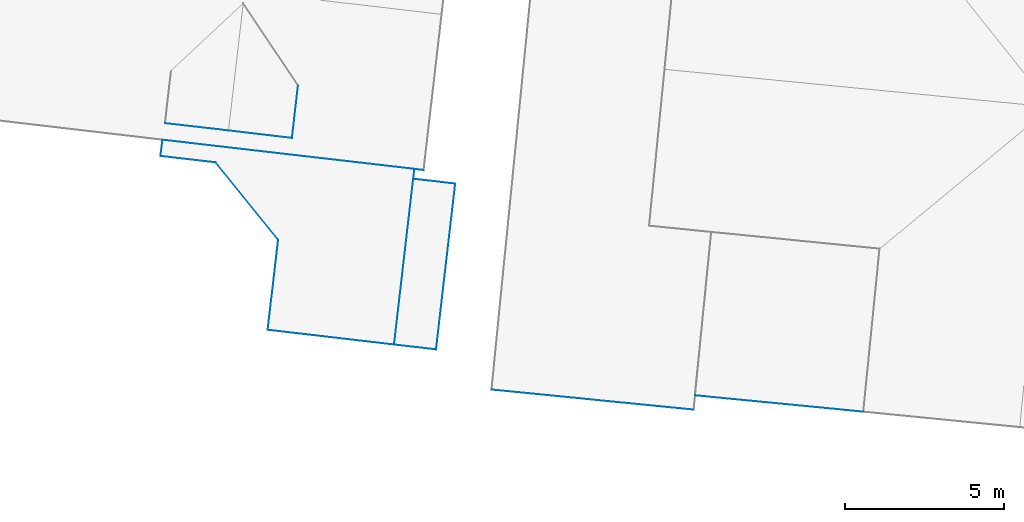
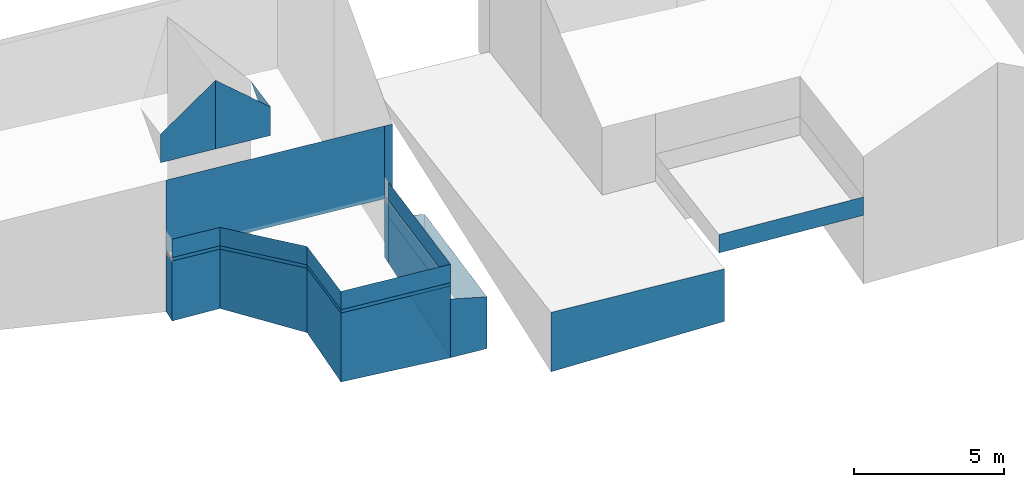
# Not in any storey, part 36 of 57: 34 walls.
"""IFC4 building model written with IfcOpenShell, lengths in metres."""

from ifc_helpers import new_model, entity, si_unit, converted_unit, frame, origin, place, context, subcontext, project, spatial, face_set, surface_model, element, save


model = new_model("IFC4")

# Units and contexts
model_context = context("Model", 3, precision=1e-05, world=origin())
body_context = subcontext(model_context, "Body", "Model", "MODEL_VIEW")
ifc_project = project(units=[converted_unit("PLANEANGLEUNIT", "DEGREE", entity("IfcRatioMeasure", 0.0174532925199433), si_unit("PLANEANGLEUNIT", "RADIAN"), dimensions=[0, 0, 0, 0, 0, 0, 0]), si_unit("AREAUNIT", "SQUARE_METRE"), si_unit("LENGTHUNIT", "METRE")], contexts=[model_context])

# Site, building
site_placement = place(None, origin())
site = spatial("IfcSite", under=ifc_project, at=site_placement, Name="_site")
building_1_placement = place(site_placement, origin())
building_1 = spatial("IfcBuilding", under=site, at=building_1_placement, Name="_building")

# Walls
wall_1_placement = place(building_1_placement, origin())
element("IfcWall", 1, at=wall_1_placement, inside=building_1, Name="Wall", PredefinedType="NOTDEFINED", context=body_context, shape_type="SurfaceModel", body=[
    surface_model("IfcFaceBasedSurfaceModel", [(250.252, 146.227, 112.65), (251.569, 146.076, 112.37), (251.569, 146.076, 110.785), (250.252, 146.227, 110.757)], [face_set([[[0, 1, 2, 3]]])]),
])
wall_2_placement = place(building_1_placement, origin())
element("IfcWall", 2, at=wall_2_placement, inside=building_1, Name="Wall", PredefinedType="NOTDEFINED", context=body_context, shape_type="SurfaceModel", body=[
    surface_model("IfcFaceBasedSurfaceModel", [(246.638, 149.164, 117.675), (246.449, 147.507, 117.68), (246.449, 147.507, 116.513)], [face_set([[[0, 1, 2]]])]),
])
wall_3_placement = place(building_1_placement, origin())
element("IfcWall", 3, at=wall_3_placement, inside=building_1, Name="Wall", PredefinedType="NOTDEFINED", context=body_context, shape_type="SurfaceModel", body=[
    surface_model("IfcFaceBasedSurfaceModel", [(244.05, 146.743, 113.18), (242.324, 146.943, 113.18), (242.324, 146.943, 110.731), (244.05, 146.743, 110.759)], [face_set([[[0, 1, 2, 3]]])]),
])
wall_4_placement = place(building_1_placement, origin())
element("IfcWall", 4, at=wall_4_placement, inside=building_1, Name="Wall", PredefinedType="NOTDEFINED", context=body_context, shape_type="SurfaceModel", body=[
    surface_model("IfcFaceBasedSurfaceModel", [(251.569, 146.076, 112.37), (250.967, 140.877, 112.37), (250.967, 140.877, 110.26), (251.569, 146.076, 110.785)], [face_set([[[0, 1, 2, 3]]])]),
])
wall_5_placement = place(building_1_placement, origin())
element("IfcWall", 5, at=wall_5_placement, inside=building_1, Name="Wall", PredefinedType="NOTDEFINED", context=body_context, shape_type="SurfaceModel", body=[
    surface_model("IfcFaceBasedSurfaceModel", [(245.688, 141.491, 113.32), (246.015, 144.325, 113.32), (246.015, 144.325, 113.18), (245.688, 141.491, 113.18)], [face_set([[[0, 1, 2, 3]]])]),
])
wall_6_placement = place(building_1_placement, origin())
element("IfcWall", 6, at=wall_6_placement, inside=building_1, Name="Wall", PredefinedType="NOTDEFINED", context=body_context, shape_type="SurfaceModel", body=[
    surface_model("IfcFaceBasedSurfaceModel", [(245.688, 141.491, 113.18), (246.015, 144.325, 113.18), (246.015, 144.325, 110.552), (245.688, 141.491, 110.37)], [face_set([[[0, 1, 2, 3]]])]),
])
wall_7_placement = place(building_1_placement, origin())
element("IfcWall", 7, at=wall_7_placement, inside=building_1, Name="Wall", PredefinedType="NOTDEFINED", context=body_context, shape_type="SurfaceModel", body=[
    surface_model("IfcFaceBasedSurfaceModel", [(246.449, 147.507, 117.68), (244.454, 147.744, 119.32), (244.454, 147.744, 116.516), (246.449, 147.507, 116.513)], [face_set([[[0, 1, 2, 3]]])]),
])
wall_8_placement = place(building_1_placement, origin())
element("IfcWall", 8, at=wall_8_placement, inside=building_1, Name="Wall", PredefinedType="NOTDEFINED", context=body_context, shape_type="SurfaceModel", body=[
    surface_model("IfcFaceBasedSurfaceModel", [(250.578, 146.5, 116.15), (250.289, 146.537, 116.15), (250.289, 146.537, 110.787), (250.578, 146.5, 110.785)], [face_set([[[0, 1, 2, 3]]])]),
])
wall_9_placement = place(building_1_placement, origin())
element("IfcWall", 9, at=wall_9_placement, inside=building_1, Name="Wall", PredefinedType="NOTDEFINED", context=body_context, shape_type="SurfaceModel", body=[
    surface_model("IfcFaceBasedSurfaceModel", [(250.289, 146.537, 116.15), (242.386, 147.452, 116.15), (242.386, 147.452, 113.18), (250.289, 146.537, 113.18)], [face_set([[[0, 1, 2, 3]]])]),
])
wall_10_placement = place(building_1_placement, origin())
element("IfcWall", 10, at=wall_10_placement, inside=building_1, Name="Wall", PredefinedType="NOTDEFINED", context=body_context, shape_type="SurfaceModel", body=[
    surface_model("IfcFaceBasedSurfaceModel", [(250.252, 146.227, 113.32), (249.65, 141.028, 113.32), (249.65, 141.028, 112.65), (250.252, 146.227, 112.65)], [face_set([[[0, 1, 2, 3]]])]),
])
wall_11_placement = place(building_1_placement, origin())
element("IfcWall", 11, at=wall_11_placement, inside=building_1, Name="Wall", PredefinedType="NOTDEFINED", context=body_context, shape_type="SurfaceModel", body=[
    surface_model("IfcFaceBasedSurfaceModel", [(250.289, 146.537, 113.18), (250.252, 146.227, 113.18), (250.252, 146.227, 110.757), (250.289, 146.537, 110.787)], [face_set([[[0, 1, 2, 3]]])]),
])
wall_12_placement = place(building_1_placement, origin())
element("IfcWall", 12, at=wall_12_placement, inside=building_1, Name="Wall", PredefinedType="NOTDEFINED", context=body_context, shape_type="SurfaceModel", body=[
    surface_model("IfcFaceBasedSurfaceModel", [(250.967, 140.877, 112.37), (249.65, 141.028, 112.65), (249.65, 141.028, 110.253), (250.967, 140.877, 110.26)], [face_set([[[0, 1, 2, 3]]])]),
])
wall_13_placement = place(building_1_placement, origin())
element("IfcWall", 13, at=wall_13_placement, inside=building_1, Name="Wall", PredefinedType="NOTDEFINED", context=body_context, shape_type="SurfaceModel", body=[
    surface_model("IfcFaceBasedSurfaceModel", [(249.65, 141.028, 113.32), (245.688, 141.491, 113.32), (245.688, 141.491, 113.18), (249.65, 141.028, 113.18)], [face_set([[[0, 1, 2, 3]]])]),
])
wall_14_placement = place(building_1_placement, origin())
element("IfcWall", 14, at=wall_14_placement, inside=building_1, Name="Wall", PredefinedType="NOTDEFINED", context=body_context, shape_type="SurfaceModel", body=[
    surface_model("IfcFaceBasedSurfaceModel", [(246.015, 144.325, 113.18), (244.05, 146.743, 113.18), (244.05, 146.743, 110.759), (246.015, 144.325, 110.552)], [face_set([[[0, 1, 2, 3]]])]),
])
wall_15_placement = place(building_1_placement, origin())
element("IfcWall", 15, at=wall_15_placement, inside=building_1, Name="Wall", PredefinedType="NOTDEFINED", context=body_context, shape_type="SurfaceModel", body=[
    surface_model("IfcFaceBasedSurfaceModel", [(244.454, 147.744, 119.32), (242.468, 147.971, 117.68), (242.468, 147.971, 116.513), (244.454, 147.744, 116.516)], [face_set([[[0, 1, 2, 3]]])]),
])
wall_16_placement = place(building_1_placement, origin())
element("IfcWall", 16, at=wall_16_placement, inside=building_1, Name="Wall", PredefinedType="NOTDEFINED", context=body_context, shape_type="SurfaceModel", body=[
    surface_model("IfcFaceBasedSurfaceModel", [(246.015, 144.325, 113.32), (244.05, 146.743, 113.32), (244.05, 146.743, 113.18), (246.015, 144.325, 113.18)], [face_set([[[0, 1, 2, 3]]])]),
])
wall_17_placement = place(building_1_placement, origin())
element("IfcWall", 17, at=wall_17_placement, inside=building_1, Name="Wall", PredefinedType="NOTDEFINED", context=body_context, shape_type="SurfaceModel", body=[
    surface_model("IfcFaceBasedSurfaceModel", [(250.252, 146.227, 113.18), (249.65, 141.028, 113.18), (249.65, 141.028, 110.253), (250.252, 146.227, 110.757)], [face_set([[[0, 1, 2, 3]]])]),
])
wall_18_placement = place(building_1_placement, origin())
element("IfcWall", 18, at=wall_18_placement, inside=building_1, Name="Wall", PredefinedType="NOTDEFINED", context=body_context, shape_type="SurfaceModel", body=[
    surface_model("IfcFaceBasedSurfaceModel", [(249.65, 141.028, 113.18), (245.688, 141.491, 113.18), (245.688, 141.491, 110.37), (249.65, 141.028, 110.253)], [face_set([[[0, 1, 2, 3]]])]),
])
wall_19_placement = place(building_1_placement, origin())
element("IfcWall", 19, at=wall_19_placement, inside=building_1, Name="Wall", PredefinedType="NOTDEFINED", context=body_context, shape_type="SurfaceModel", body=[
    surface_model("IfcFaceBasedSurfaceModel", [(244.05, 146.743, 113.32), (242.324, 146.943, 113.32), (242.324, 146.943, 113.18), (244.05, 146.743, 113.18)], [face_set([[[0, 1, 2, 3]]])]),
])
wall_20_placement = place(building_1_placement, origin())
element("IfcWall", 20, at=wall_20_placement, inside=building_1, Name="Wall", PredefinedType="NOTDEFINED", context=body_context, shape_type="SurfaceModel", body=[
    surface_model("IfcFaceBasedSurfaceModel", [(249.65, 141.028, 112.65), (250.252, 146.227, 112.65), (250.252, 146.227, 110.757), (249.65, 141.028, 110.253)], [face_set([[[0, 1, 2, 3]]])]),
])
wall_21_placement = place(building_1_placement, origin())
element("IfcWall", 21, at=wall_21_placement, inside=building_1, Name="Wall", PredefinedType="NOTDEFINED", context=body_context, shape_type="SurfaceModel", body=[
    surface_model("IfcFaceBasedSurfaceModel", [(242.324, 146.943, 113.18), (242.386, 147.452, 113.18), (242.386, 147.452, 110.779), (242.324, 146.943, 110.731)], [face_set([[[0, 1, 2, 3]]])]),
])
wall_22_placement = place(building_1_placement, origin())
element("IfcWall", 22, at=wall_22_placement, inside=building_1, Name="Wall", PredefinedType="NOTDEFINED", context=body_context, shape_type="SurfaceModel", body=[
    surface_model("IfcFaceBasedSurfaceModel", [(249.65, 141.028, 113.32), (245.688, 141.491, 113.32), (245.688, 141.491, 114.07), (249.65, 141.028, 114.07)], [face_set([[[0, 1, 2, 3]]])]),
])
wall_23_placement = place(building_1_placement, origin())
element("IfcWall", 23, at=wall_23_placement, inside=building_1, Name="Wall", PredefinedType="NOTDEFINED", context=body_context, shape_type="SurfaceModel", body=[
    surface_model("IfcFaceBasedSurfaceModel", [(246.015, 144.325, 113.32), (244.05, 146.743, 113.32), (244.05, 146.743, 114.07), (246.015, 144.325, 114.07)], [face_set([[[0, 1, 2, 3]]])]),
])
wall_24_placement = place(building_1_placement, origin())
element("IfcWall", 24, at=wall_24_placement, inside=building_1, Name="Wall", PredefinedType="NOTDEFINED", context=body_context, shape_type="SurfaceModel", body=[
    surface_model("IfcFaceBasedSurfaceModel", [(244.05, 146.743, 113.32), (242.324, 146.943, 113.32), (242.324, 146.943, 114.07), (244.05, 146.743, 114.07)], [face_set([[[0, 1, 2, 3]]])]),
])
wall_25_placement = place(building_1_placement, origin())
element("IfcWall", 25, at=wall_25_placement, inside=building_1, Name="Wall", PredefinedType="NOTDEFINED", context=body_context, shape_type="SurfaceModel", body=[
    surface_model("IfcFaceBasedSurfaceModel", [(250.252, 146.227, 113.32), (249.65, 141.028, 113.32), (249.65, 141.028, 114.07), (250.252, 146.227, 114.07)], [face_set([[[0, 1, 2, 3]]])]),
])
wall_26_placement = place(building_1_placement, origin())
element("IfcWall", 26, at=wall_26_placement, inside=building_1, Name="Wall", PredefinedType="NOTDEFINED", context=body_context, shape_type="SurfaceModel", body=[
    surface_model("IfcFaceBasedSurfaceModel", [(245.688, 141.491, 113.32), (246.015, 144.325, 113.32), (246.015, 144.325, 114.07), (245.688, 141.491, 114.07)], [face_set([[[0, 1, 2, 3]]])]),
])
wall_27_placement = place(building_1_placement, origin())
element("IfcWall", 27, at=wall_27_placement, inside=building_1, Name="Wall", PredefinedType="NOTDEFINED", context=body_context, shape_type="SurfaceModel", body=[
    surface_model("IfcFaceBasedSurfaceModel", [(246.015, 144.325, 113.32), (244.05, 146.743, 113.32), (244.05, 146.743, 114.07), (246.015, 144.325, 114.07)], [face_set([[[0, 1, 2, 3]]])]),
])
wall_28_placement = place(building_1_placement, origin())
element("IfcWall", 28, at=wall_28_placement, inside=building_1, Name="Wall", PredefinedType="NOTDEFINED", context=body_context, shape_type="SurfaceModel", body=[
    surface_model("IfcFaceBasedSurfaceModel", [(244.05, 146.743, 113.32), (242.324, 146.943, 113.32), (242.324, 146.943, 114.07), (244.05, 146.743, 114.07)], [face_set([[[0, 1, 2, 3]]])]),
])
wall_29_placement = place(building_1_placement, origin())
element("IfcWall", 29, at=wall_29_placement, inside=building_1, Name="Wall", PredefinedType="NOTDEFINED", context=body_context, shape_type="SurfaceModel", body=[
    surface_model("IfcFaceBasedSurfaceModel", [(250.252, 146.227, 113.32), (249.65, 141.028, 113.32), (249.65, 141.028, 114.07), (250.252, 146.227, 114.07)], [face_set([[[0, 1, 2, 3]]])]),
])
wall_30_placement = place(building_1_placement, origin())
element("IfcWall", 30, at=wall_30_placement, inside=building_1, Name="Wall", PredefinedType="NOTDEFINED", context=body_context, shape_type="SurfaceModel", body=[
    surface_model("IfcFaceBasedSurfaceModel", [(249.65, 141.028, 113.32), (245.688, 141.491, 113.32), (245.688, 141.491, 114.07), (249.65, 141.028, 114.07)], [face_set([[[0, 1, 2, 3]]])]),
])
wall_31_placement = place(building_1_placement, origin())
element("IfcWall", 31, at=wall_31_placement, inside=building_1, Name="Wall", PredefinedType="NOTDEFINED", context=body_context, shape_type="SurfaceModel", body=[
    surface_model("IfcFaceBasedSurfaceModel", [(245.688, 141.491, 113.32), (246.015, 144.325, 113.32), (246.015, 144.325, 114.07), (245.688, 141.491, 114.07)], [face_set([[[0, 1, 2, 3]]])]),
])

# Building
building_2_placement = place(site_placement, origin())
building_2 = spatial("IfcBuilding", under=site, at=building_2_placement, Name="_building")

# Walls
wall_32_placement = place(building_2_placement, origin())
element("IfcWall", 32, at=wall_32_placement, inside=building_2, Name="Wall", PredefinedType="NOTDEFINED", context=body_context, shape_type="SurfaceModel", body=[
    surface_model("IfcFaceBasedSurfaceModel", [(259.048, 138.987, 111.83), (252.709, 139.616, 111.89), (252.709, 139.616, 109.462), (259.048, 138.987, 109.688)], [face_set([[[0, 1, 2, 3]]])]),
])
for number, where, name in (
    (33, (0.0, 0.0, 0.0), "Wall"),
    (34, (0.0, 0.0, 0.0), "Wall"),
):
    element("IfcWall", number, at=place(building_2_placement, frame(where)), inside=building_2, Name=name, PredefinedType="NOTDEFINED", context=body_context, shape_type="SurfaceModel", body=[
        surface_model("IfcFaceBasedSurfaceModel", [(264.369, 138.922, 112.19), (259.088, 139.436, 112.19), (259.088, 139.436, 112.94), (264.369, 138.922, 112.94)], [face_set([[[0, 1, 2, 3]]])]),
    ])

save(model, "model.ifc")
